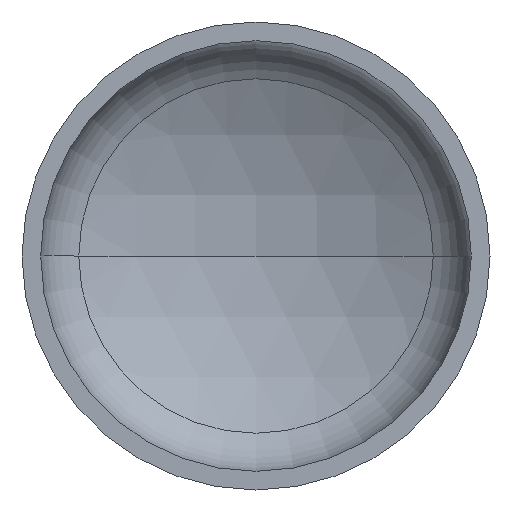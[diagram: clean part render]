
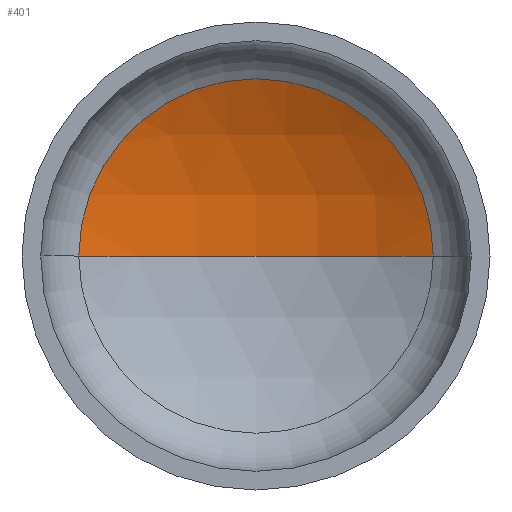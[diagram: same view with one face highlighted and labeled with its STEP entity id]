
A CAD part, front view. The second image highlights one B-rep face of the part: STEP entity #401.
In plain terms, the highlighted spherical face has radius 1760 mm.
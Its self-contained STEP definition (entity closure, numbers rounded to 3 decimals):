
#18 = CIRCLE ( 'NONE', #34, 1760. ) ;
#21 = VERTEX_POINT ( 'NONE', #223 ) ;
#30 = AXIS2_PLACEMENT_3D ( 'NONE', #159, #317, #338 ) ;
#31 = VERTEX_POINT ( 'NONE', #222 ) ;
#34 = AXIS2_PLACEMENT_3D ( 'NONE', #344, #253, #276 ) ;
#37 = FACE_OUTER_BOUND ( 'NONE', #83, .T. ) ;
#39 = AXIS2_PLACEMENT_3D ( 'NONE', #259, #50, #280 ) ;
#43 = ORIENTED_EDGE ( 'NONE', *, *, #125, .F. ) ;
#44 = VERTEX_POINT ( 'NONE', #366 ) ;
#50 = DIRECTION ( 'NONE',  ( 0., -1., 0. ) ) ;
#83 = EDGE_LOOP ( 'NONE', ( #43, #133, #383 ) ) ;
#116 = EDGE_CURVE ( 'NONE', #31, #21, #352, .T. ) ;
#120 = EDGE_CURVE ( 'NONE', #44, #31, #18, .T. ) ;
#125 = EDGE_CURVE ( 'NONE', #44, #21, #290, .T. ) ;
#133 = ORIENTED_EDGE ( 'NONE', *, *, #120, .T. ) ;
#159 = CARTESIAN_POINT ( 'NONE',  ( 0., -1150.926, 0. ) ) ;
#207 = AXIS2_PLACEMENT_3D ( 'NONE', #353, #323, #381 ) ;
#222 = CARTESIAN_POINT ( 'NONE',  ( 832.901, 399.518, 0. ) ) ;
#223 = CARTESIAN_POINT ( 'NONE',  ( -832.901, 399.518, 0. ) ) ;
#253 = DIRECTION ( 'NONE',  ( 0., 0., -1. ) ) ;
#259 = CARTESIAN_POINT ( 'NONE',  ( 0., 399.518, 0. ) ) ;
#276 = DIRECTION ( 'NONE',  ( -1., 0., 0. ) ) ;
#280 = DIRECTION ( 'NONE',  ( 1., 0., 0. ) ) ;
#290 = CIRCLE ( 'NONE', #30, 1760. ) ;
#317 = DIRECTION ( 'NONE',  ( 0., 0., 1. ) ) ;
#323 = DIRECTION ( 'NONE',  ( 0., 0., -1. ) ) ;
#338 = DIRECTION ( 'NONE',  ( 1., 0., 0. ) ) ;
#344 = CARTESIAN_POINT ( 'NONE',  ( 0., -1150.926, 0. ) ) ;
#352 = CIRCLE ( 'NONE', #39, 832.901 ) ;
#353 = CARTESIAN_POINT ( 'NONE',  ( 0., -1150.926, 0. ) ) ;
#356 = SPHERICAL_SURFACE ( 'NONE', #207, 1760. ) ;
#366 = CARTESIAN_POINT ( 'NONE',  ( 0., 609.074, 0. ) ) ;
#381 = DIRECTION ( 'NONE',  ( -1., 0., 0. ) ) ;
#383 = ORIENTED_EDGE ( 'NONE', *, *, #116, .T. ) ;
#401 = ADVANCED_FACE ( 'NONE', ( #37 ), #356, .F. ) ;
